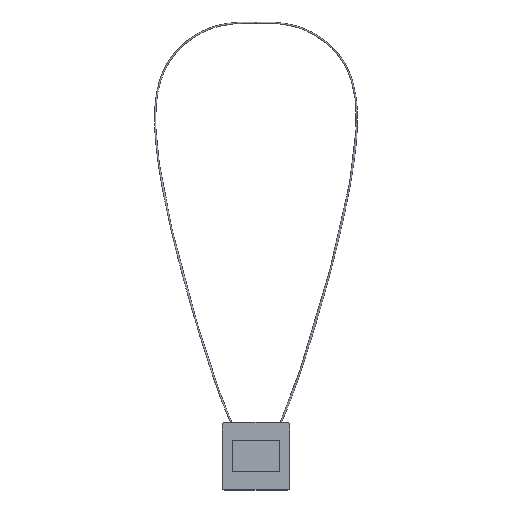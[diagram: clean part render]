
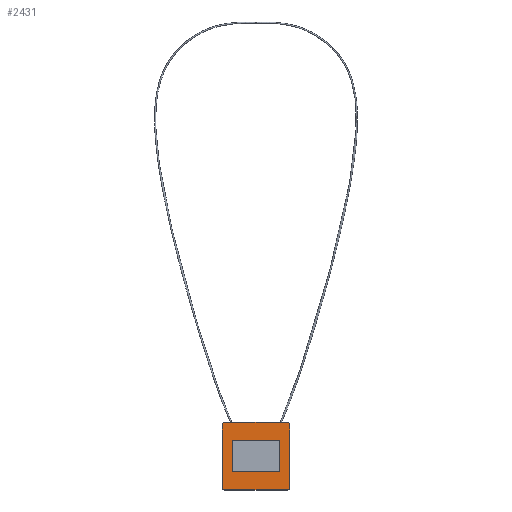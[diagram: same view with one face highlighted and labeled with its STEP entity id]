
A CAD part, front view. The second image highlights one B-rep face of the part: STEP entity #2431.
In plain terms, the highlighted planar face has unit normal (0, -1, 0).
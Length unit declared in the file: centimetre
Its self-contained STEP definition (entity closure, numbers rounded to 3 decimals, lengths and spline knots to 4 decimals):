
#57=FACE_BOUND('',#361,.T.);
#110=CIRCLE('',#2573,0.19);
#112=CIRCLE('',#2577,0.19);
#114=CIRCLE('',#2581,0.19);
#116=CIRCLE('',#2585,0.19);
#210=FACE_OUTER_BOUND('',#360,.T.);
#360=EDGE_LOOP('',(#1668,#1669,#1670,#1671,#1672,#1673,#1674,#1675));
#361=EDGE_LOOP('',(#1676,#1677,#1678,#1679));
#516=LINE('',#3474,#778);
#520=LINE('',#3481,#782);
#522=LINE('',#3487,#784);
#527=LINE('',#3501,#789);
#531=LINE('',#3513,#793);
#535=LINE('',#3525,#797);
#544=LINE('',#3550,#806);
#545=LINE('',#3551,#807);
#778=VECTOR('',#2786,2.28);
#782=VECTOR('',#2792,3.48);
#784=VECTOR('',#2796,4.553);
#789=VECTOR('',#2809,4.553);
#793=VECTOR('',#2821,4.553);
#797=VECTOR('',#2833,4.553);
#806=VECTOR('',#2862,2.28);
#807=VECTOR('',#2863,3.48);
#1040=VERTEX_POINT('',#3471);
#1041=VERTEX_POINT('',#3473);
#1043=VERTEX_POINT('',#3479);
#1045=VERTEX_POINT('',#3484);
#1046=VERTEX_POINT('',#3486);
#1049=VERTEX_POINT('',#3493);
#1051=VERTEX_POINT('',#3499);
#1053=VERTEX_POINT('',#3505);
#1055=VERTEX_POINT('',#3511);
#1057=VERTEX_POINT('',#3517);
#1059=VERTEX_POINT('',#3523);
#1065=VERTEX_POINT('',#3549);
#1254=EDGE_CURVE('',#1041,#1040,#516,.T.);
#1258=EDGE_CURVE('',#1040,#1043,#520,.T.);
#1260=EDGE_CURVE('',#1045,#1046,#522,.T.);
#1264=EDGE_CURVE('',#1049,#1045,#110,.T.);
#1267=EDGE_CURVE('',#1051,#1049,#527,.T.);
#1270=EDGE_CURVE('',#1053,#1051,#112,.T.);
#1273=EDGE_CURVE('',#1055,#1053,#531,.T.);
#1276=EDGE_CURVE('',#1057,#1055,#114,.T.);
#1279=EDGE_CURVE('',#1059,#1057,#535,.T.);
#1281=EDGE_CURVE('',#1046,#1059,#116,.T.);
#1292=EDGE_CURVE('',#1043,#1065,#544,.T.);
#1293=EDGE_CURVE('',#1065,#1041,#545,.T.);
#1668=ORIENTED_EDGE('',*,*,#1260,.F.);
#1669=ORIENTED_EDGE('',*,*,#1264,.F.);
#1670=ORIENTED_EDGE('',*,*,#1267,.F.);
#1671=ORIENTED_EDGE('',*,*,#1270,.F.);
#1672=ORIENTED_EDGE('',*,*,#1273,.F.);
#1673=ORIENTED_EDGE('',*,*,#1276,.F.);
#1674=ORIENTED_EDGE('',*,*,#1279,.F.);
#1675=ORIENTED_EDGE('',*,*,#1281,.F.);
#1676=ORIENTED_EDGE('',*,*,#1258,.T.);
#1677=ORIENTED_EDGE('',*,*,#1292,.T.);
#1678=ORIENTED_EDGE('',*,*,#1293,.T.);
#1679=ORIENTED_EDGE('',*,*,#1254,.T.);
#2340=PLANE('',#2593);
#2431=ADVANCED_FACE('',(#210,#57),#2340,.F.);
#2573=AXIS2_PLACEMENT_3D('',#3495,#2802,#2803);
#2577=AXIS2_PLACEMENT_3D('',#3507,#2814,#2815);
#2581=AXIS2_PLACEMENT_3D('',#3519,#2826,#2827);
#2585=AXIS2_PLACEMENT_3D('',#3528,#2837,#2838);
#2593=AXIS2_PLACEMENT_3D('',#3548,#2860,#2861);
#2786=DIRECTION('',(0.,0.,-1.));
#2792=DIRECTION('',(-1.,0.,0.));
#2796=DIRECTION('',(0.,0.,-1.));
#2802=DIRECTION('center_axis',(0.,1.,0.));
#2803=DIRECTION('ref_axis',(1.,0.,0.));
#2809=DIRECTION('',(1.,0.,0.));
#2814=DIRECTION('center_axis',(0.,1.,0.));
#2815=DIRECTION('ref_axis',(0.,0.,
1.));
#2821=DIRECTION('',(0.,0.,1.));
#2826=DIRECTION('center_axis',(0.,1.,0.));
#2827=DIRECTION('ref_axis',(-1.,0.,0.));
#2833=DIRECTION('',(-1.,0.,0.));
#2837=DIRECTION('center_axis',(0.,1.,0.));
#2838=DIRECTION('ref_axis',(0.,0.,-1.));
#2860=DIRECTION('center_axis',(0.,1.,0.));
#2861=DIRECTION('ref_axis',(-1.,0.,0.));
#2862=DIRECTION('',(0.,0.,1.));
#2863=DIRECTION('',(1.,0.,0.));
#3471=CARTESIAN_POINT('',(1.74,0.9,-1.14));
#3473=CARTESIAN_POINT('',(1.74,0.9,1.14));
#3474=CARTESIAN_POINT('',(1.74,0.9,-0.57));
#3479=CARTESIAN_POINT('',(-1.74,0.9,-1.14));
#3481=CARTESIAN_POINT('',(-0.87,0.9,-1.14));
#3484=CARTESIAN_POINT('',(2.4665,0.9,2.2765));
#3486=CARTESIAN_POINT('',(2.4665,0.9,-2.2765));
#3487=CARTESIAN_POINT('',(2.4665,0.9,-1.1382));
#3493=CARTESIAN_POINT('',(2.2765,0.9,2.4665));
#3495=CARTESIAN_POINT('Origin',(2.2765,0.9,2.2765));
#3499=CARTESIAN_POINT('',(-2.2765,0.9,2.4665));
#3501=CARTESIAN_POINT('',(1.1383,0.9,2.4665));
#3505=CARTESIAN_POINT('',(-2.4665,0.9,2.2765));
#3507=CARTESIAN_POINT('Origin',(-2.2765,0.9,2.2765));
#3511=CARTESIAN_POINT('',(-2.4665,0.9,-2.2765));
#3513=CARTESIAN_POINT('',(-2.4665,0.9,1.1383));
#3517=CARTESIAN_POINT('',(-2.2765,0.9,-2.4665));
#3519=CARTESIAN_POINT('Origin',(-2.2765,0.9,-2.2765));
#3523=CARTESIAN_POINT('',(2.2765,0.9,-2.4665));
#3525=CARTESIAN_POINT('',(-1.1382,0.9,-2.4665));
#3528=CARTESIAN_POINT('Origin',(2.2765,0.9,-2.2765));
#3548=CARTESIAN_POINT('Origin',(0.,0.9,0.));
#3549=CARTESIAN_POINT('',(-1.74,0.9,1.14));
#3550=CARTESIAN_POINT('',(-1.74,0.9,0.57));
#3551=CARTESIAN_POINT('',(0.87,0.9,1.14));
